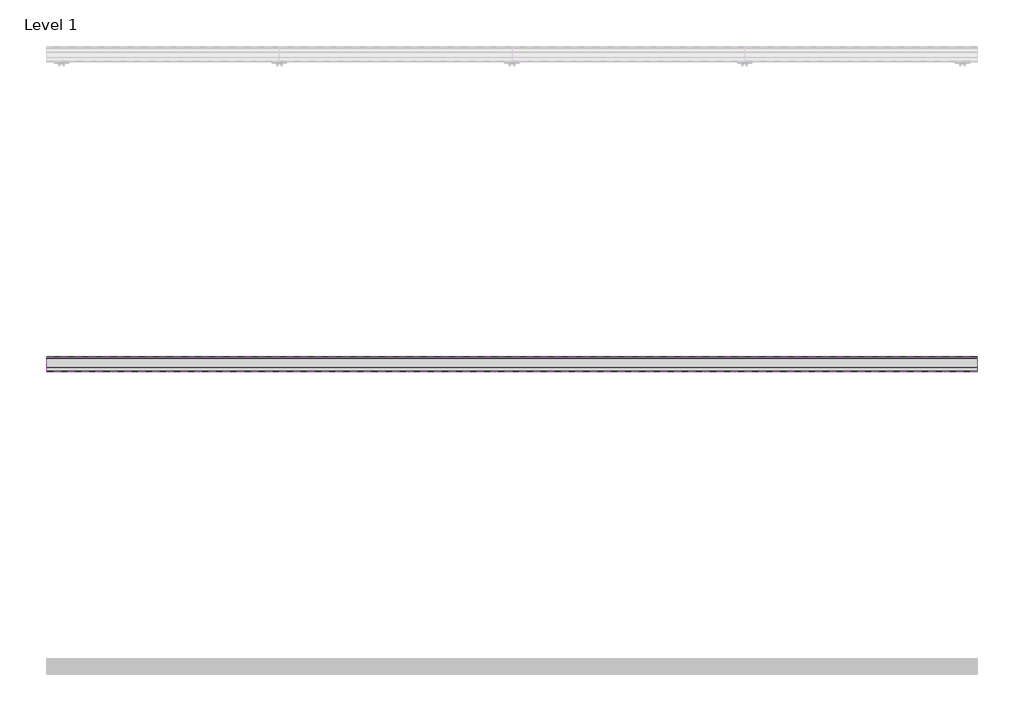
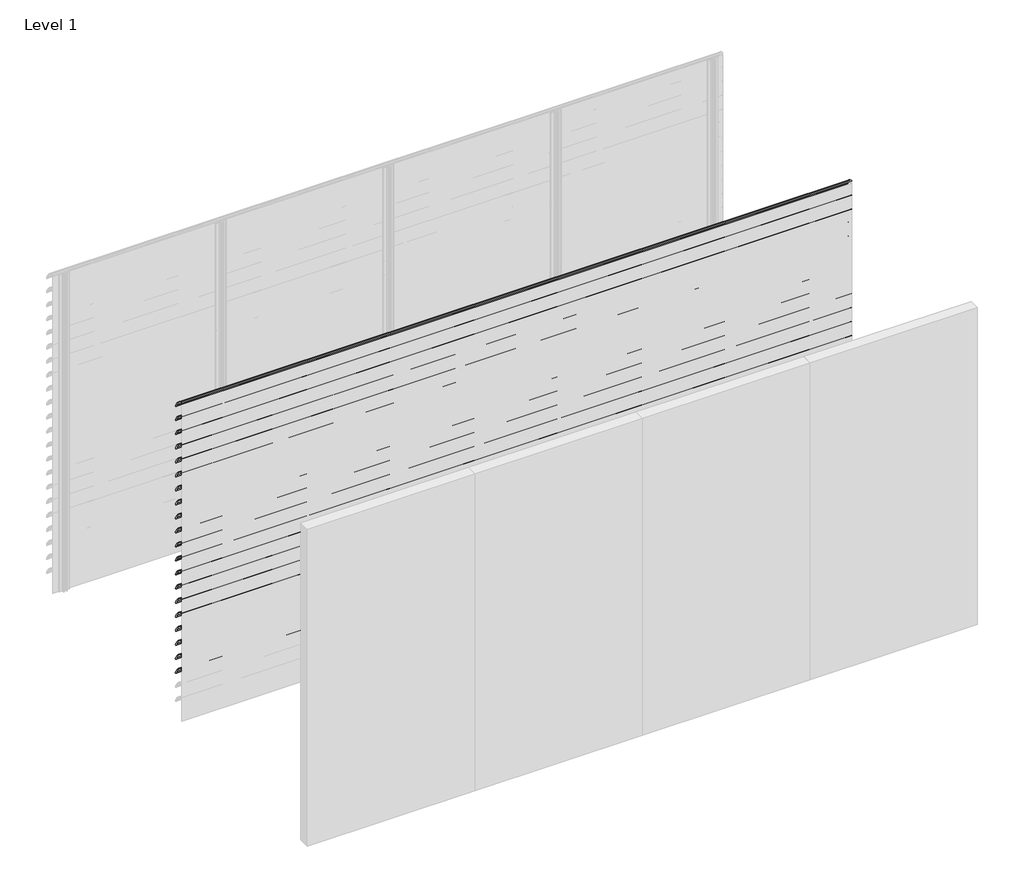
# One storey, part 3 of 57: 20 proxies.
"""IFC4 building model written with IfcOpenShell, lengths in millimetres."""

from ifc_helpers import new_model, si_unit, point, frame, frame_2d, origin, place, context, project, spatial, polyline, circle_curve, trimmed, segment, composite_curve, outline, extrude, element, save

model = new_model("IFC4")

# Units and contexts
model_context = context("Model", 3, world=origin())
ifc_project = project(units=[si_unit("LENGTHUNIT", "METRE", prefix="MILLI")], contexts=[model_context])

# Site, building, storey
site = spatial("IfcSite", under=ifc_project)
building = spatial("IfcBuilding", under=site)
storey = spatial("IfcBuildingStorey", under=building, Name="Level 1", Elevation=0.0)

# Proxies
placement = place(None, origin())
element("IfcBuildingElementProxy", 1, Name="Wall Sweeps", at=placement, inside=storey, context=model_context, shape_type="SweptSolid", body=[
    extrude(outline(composite_curve([segment(trimmed(circle_curve(frame_2d((-55993.7822526, 3016.4913792)), 4.2177474), [point((-55989.6985606, 3017.5462976))], [point((-55993.7822526, 3020.7091266))], False, "CARTESIAN"), True, "CONTINUOUS"), segment(trimmed(circle_curve(frame_2d((-56018.7150834, 2918.2536312)), 105.4456002), [point((-55993.7822526, 3020.7091266))], [point((-55971.7914298, 3012.6832099))], False, "CARTESIAN"), True, "CONTINUOUS"), segment(trimmed(circle_curve(frame_2d((-56061.7199745, 2864.0352476)), 173.7335887), [point((-55971.7914298, 3012.6832099))], [point((-55913.0720121, 2953.9637922))], False, "CARTESIAN"), True, "CONTINUOUS"), segment(trimmed(circle_curve(frame_2d((-56004.9297178, 2902.1860314)), 105.4456002), [point((-55913.0720121, 2953.9637922))], [point((-55903.6249616, 2931.4455765))], False, "CARTESIAN"), True, "CONTINUOUS"), segment(trimmed(circle_curve(frame_2d((-55907.809737, 2930.3307305)), 4.3307305), [point((-55903.6249616, 2931.4455765))], [point((-55909.0769196, 2926.189538))], False, "CARTESIAN"), True, "CONTINUOUS"), segment(polyline([(-55909.0769196, 2926.189538), (-55934.7401984, 2950.9722783)]), True, "CONTINUOUS"), segment(trimmed(circle_curve(frame_2d((-55931.3879574, 2953.2977626)), 4.079877), [point((-55934.7401984, 2950.9722783))], [point((-55930.7310597, 2957.3244091))], False, "CARTESIAN"), True, "CONTINUOUS"), segment(trimmed(circle_curve(frame_2d((-56014.6665585, 2935.2544323)), 86.7885467), [point((-55930.7310597, 2957.3244091))], [point((-55942.3028351, 2983.1683485))], True, "CARTESIAN"), True, "CONTINUOUS"), segment(polyline([(-55942.3028351, 2983.1683485), (-55940.7230099, 2985.9046861)]), True, "CONTINUOUS"), segment(trimmed(circle_curve(frame_2d((-56061.7199745, 2864.0352476)), 171.7335887), [point((-55940.7230099, 2985.9046861))], [point((-55972.7555872, 3010.9289618))], True, "CARTESIAN"), True, "CONTINUOUS"), segment(trimmed(circle_curve(frame_2d((-56018.7150834, 2918.2536312)), 103.4456002), [point((-55972.7555872, 3010.9289618))], [point((-55989.6985606, 3017.5462976))], True, "CARTESIAN"), True, "CONTINUOUS")], self_intersect=False)), frame((0.0, 0.0, 0.0), z_axis=(1.0, 0.0, 0.0), x_axis=(0.0, 1.0, 0.0)), (0.0, 0.0, 1.0), 6000.0),
])
element("IfcBuildingElementProxy", 2, Name="Wall Sweeps", at=placement, inside=storey, context=model_context, shape_type="SweptSolid", body=[
    extrude(outline(composite_curve([segment(trimmed(circle_curve(frame_2d((-55993.7822526, 2883.4913792)), 4.2177474), [point((-55989.6985606, 2884.5462976))], [point((-55993.7822526, 2887.7091266))], False, "CARTESIAN"), True, "CONTINUOUS"), segment(trimmed(circle_curve(frame_2d((-56018.7150834, 2785.2536312)), 105.4456002), [point((-55993.7822526, 2887.7091266))], [point((-55971.7914298, 2879.6832099))], False, "CARTESIAN"), True, "CONTINUOUS"), segment(trimmed(circle_curve(frame_2d((-56061.7199745, 2731.0352476)), 173.7335887), [point((-55971.7914298, 2879.6832099))], [point((-55913.0720121, 2820.9637922))], False, "CARTESIAN"), True, "CONTINUOUS"), segment(trimmed(circle_curve(frame_2d((-56004.9297178, 2769.1860314)), 105.4456002), [point((-55913.0720121, 2820.9637922))], [point((-55903.6249616, 2798.4455765))], False, "CARTESIAN"), True, "CONTINUOUS"), segment(trimmed(circle_curve(frame_2d((-55907.809737, 2797.3307305)), 4.3307305), [point((-55903.6249616, 2798.4455765))], [point((-55909.0769196, 2793.189538))], False, "CARTESIAN"), True, "CONTINUOUS"), segment(polyline([(-55909.0769196, 2793.189538), (-55934.7401984, 2817.9722783)]), True, "CONTINUOUS"), segment(trimmed(circle_curve(frame_2d((-55931.3879574, 2820.2977626)), 4.079877), [point((-55934.7401984, 2817.9722783))], [point((-55930.7310597, 2824.3244091))], False, "CARTESIAN"), True, "CONTINUOUS"), segment(trimmed(circle_curve(frame_2d((-56014.6665585, 2802.2544323)), 86.7885467), [point((-55930.7310597, 2824.3244091))], [point((-55942.3028351, 2850.1683485))], True, "CARTESIAN"), True, "CONTINUOUS"), segment(polyline([(-55942.3028351, 2850.1683485), (-55940.7230099, 2852.9046861)]), True, "CONTINUOUS"), segment(trimmed(circle_curve(frame_2d((-56061.7199745, 2731.0352476)), 171.7335887), [point((-55940.7230099, 2852.9046861))], [point((-55972.7555872, 2877.9289618))], True, "CARTESIAN"), True, "CONTINUOUS"), segment(trimmed(circle_curve(frame_2d((-56018.7150834, 2785.2536312)), 103.4456002), [point((-55972.7555872, 2877.9289618))], [point((-55989.6985606, 2884.5462976))], True, "CARTESIAN"), True, "CONTINUOUS")], self_intersect=False)), frame((0.0, 0.0, 0.0), z_axis=(1.0, 0.0, 0.0), x_axis=(0.0, 1.0, 0.0)), (0.0, 0.0, 1.0), 6000.0),
])
element("IfcBuildingElementProxy", 3, Name="Wall Sweeps", at=placement, inside=storey, context=model_context, shape_type="SweptSolid", body=[
    extrude(outline(composite_curve([segment(trimmed(circle_curve(frame_2d((-55993.7822526, 2750.4913792)), 4.2177474), [point((-55989.6985606, 2751.5462976))], [point((-55993.7822526, 2754.7091266))], False, "CARTESIAN"), True, "CONTINUOUS"), segment(trimmed(circle_curve(frame_2d((-56018.7150834, 2652.2536312)), 105.4456002), [point((-55993.7822526, 2754.7091266))], [point((-55971.7914298, 2746.6832099))], False, "CARTESIAN"), True, "CONTINUOUS"), segment(trimmed(circle_curve(frame_2d((-56061.7199745, 2598.0352476)), 173.7335887), [point((-55971.7914298, 2746.6832099))], [point((-55913.0720121, 2687.9637922))], False, "CARTESIAN"), True, "CONTINUOUS"), segment(trimmed(circle_curve(frame_2d((-56004.9297178, 2636.1860314)), 105.4456002), [point((-55913.0720121, 2687.9637922))], [point((-55903.6249616, 2665.4455765))], False, "CARTESIAN"), True, "CONTINUOUS"), segment(trimmed(circle_curve(frame_2d((-55907.809737, 2664.3307305)), 4.3307305), [point((-55903.6249616, 2665.4455765))], [point((-55909.0769196, 2660.189538))], False, "CARTESIAN"), True, "CONTINUOUS"), segment(polyline([(-55909.0769196, 2660.189538), (-55934.7401984, 2684.9722783)]), True, "CONTINUOUS"), segment(trimmed(circle_curve(frame_2d((-55931.3879574, 2687.2977626)), 4.079877), [point((-55934.7401984, 2684.9722783))], [point((-55930.7310597, 2691.3244091))], False, "CARTESIAN"), True, "CONTINUOUS"), segment(trimmed(circle_curve(frame_2d((-56014.6665585, 2669.2544323)), 86.7885467), [point((-55930.7310597, 2691.3244091))], [point((-55942.3028351, 2717.1683485))], True, "CARTESIAN"), True, "CONTINUOUS"), segment(polyline([(-55942.3028351, 2717.1683485), (-55940.7230099, 2719.9046861)]), True, "CONTINUOUS"), segment(trimmed(circle_curve(frame_2d((-56061.7199745, 2598.0352476)), 171.7335887), [point((-55940.7230099, 2719.9046861))], [point((-55972.7555872, 2744.9289618))], True, "CARTESIAN"), True, "CONTINUOUS"), segment(trimmed(circle_curve(frame_2d((-56018.7150834, 2652.2536312)), 103.4456002), [point((-55972.7555872, 2744.9289618))], [point((-55989.6985606, 2751.5462976))], True, "CARTESIAN"), True, "CONTINUOUS")], self_intersect=False)), frame((0.0, 0.0, 0.0), z_axis=(1.0, 0.0, 0.0), x_axis=(0.0, 1.0, 0.0)), (0.0, 0.0, 1.0), 6000.0),
])
element("IfcBuildingElementProxy", 4, Name="Wall Sweeps", at=placement, inside=storey, context=model_context, shape_type="SweptSolid", body=[
    extrude(outline(composite_curve([segment(trimmed(circle_curve(frame_2d((-55993.7822526, 2617.4913792)), 4.2177474), [point((-55989.6985606, 2618.5462976))], [point((-55993.7822526, 2621.7091266))], False, "CARTESIAN"), True, "CONTINUOUS"), segment(trimmed(circle_curve(frame_2d((-56018.7150834, 2519.2536312)), 105.4456002), [point((-55993.7822526, 2621.7091266))], [point((-55971.7914298, 2613.6832099))], False, "CARTESIAN"), True, "CONTINUOUS"), segment(trimmed(circle_curve(frame_2d((-56061.7199745, 2465.0352476)), 173.7335887), [point((-55971.7914298, 2613.6832099))], [point((-55913.0720121, 2554.9637922))], False, "CARTESIAN"), True, "CONTINUOUS"), segment(trimmed(circle_curve(frame_2d((-56004.9297178, 2503.1860314)), 105.4456002), [point((-55913.0720121, 2554.9637922))], [point((-55903.6249616, 2532.4455765))], False, "CARTESIAN"), True, "CONTINUOUS"), segment(trimmed(circle_curve(frame_2d((-55907.809737, 2531.3307305)), 4.3307305), [point((-55903.6249616, 2532.4455765))], [point((-55909.0769196, 2527.189538))], False, "CARTESIAN"), True, "CONTINUOUS"), segment(polyline([(-55909.0769196, 2527.189538), (-55934.7401984, 2551.9722783)]), True, "CONTINUOUS"), segment(trimmed(circle_curve(frame_2d((-55931.3879574, 2554.2977626)), 4.079877), [point((-55934.7401984, 2551.9722783))], [point((-55930.7310597, 2558.3244091))], False, "CARTESIAN"), True, "CONTINUOUS"), segment(trimmed(circle_curve(frame_2d((-56014.6665585, 2536.2544323)), 86.7885467), [point((-55930.7310597, 2558.3244091))], [point((-55942.3028351, 2584.1683485))], True, "CARTESIAN"), True, "CONTINUOUS"), segment(polyline([(-55942.3028351, 2584.1683485), (-55940.7230099, 2586.9046861)]), True, "CONTINUOUS"), segment(trimmed(circle_curve(frame_2d((-56061.7199745, 2465.0352476)), 171.7335887), [point((-55940.7230099, 2586.9046861))], [point((-55972.7555872, 2611.9289618))], True, "CARTESIAN"), True, "CONTINUOUS"), segment(trimmed(circle_curve(frame_2d((-56018.7150834, 2519.2536312)), 103.4456002), [point((-55972.7555872, 2611.9289618))], [point((-55989.6985606, 2618.5462976))], True, "CARTESIAN"), True, "CONTINUOUS")], self_intersect=False)), frame((0.0, 0.0, 0.0), z_axis=(1.0, 0.0, 0.0), x_axis=(0.0, 1.0, 0.0)), (0.0, 0.0, 1.0), 6000.0),
])
element("IfcBuildingElementProxy", 5, Name="Wall Sweeps", at=placement, inside=storey, context=model_context, shape_type="SweptSolid", body=[
    extrude(outline(composite_curve([segment(trimmed(circle_curve(frame_2d((-55993.7822526, 2484.4913792)), 4.2177474), [point((-55989.6985606, 2485.5462976))], [point((-55993.7822526, 2488.7091266))], False, "CARTESIAN"), True, "CONTINUOUS"), segment(trimmed(circle_curve(frame_2d((-56018.7150834, 2386.2536312)), 105.4456002), [point((-55993.7822526, 2488.7091266))], [point((-55971.7914298, 2480.6832099))], False, "CARTESIAN"), True, "CONTINUOUS"), segment(trimmed(circle_curve(frame_2d((-56061.7199745, 2332.0352476)), 173.7335887), [point((-55971.7914298, 2480.6832099))], [point((-55913.0720121, 2421.9637922))], False, "CARTESIAN"), True, "CONTINUOUS"), segment(trimmed(circle_curve(frame_2d((-56004.9297178, 2370.1860314)), 105.4456002), [point((-55913.0720121, 2421.9637922))], [point((-55903.6249616, 2399.4455765))], False, "CARTESIAN"), True, "CONTINUOUS"), segment(trimmed(circle_curve(frame_2d((-55907.809737, 2398.3307305)), 4.3307305), [point((-55903.6249616, 2399.4455765))], [point((-55909.0769196, 2394.189538))], False, "CARTESIAN"), True, "CONTINUOUS"), segment(polyline([(-55909.0769196, 2394.189538), (-55934.7401984, 2418.9722783)]), True, "CONTINUOUS"), segment(trimmed(circle_curve(frame_2d((-55931.3879574, 2421.2977626)), 4.079877), [point((-55934.7401984, 2418.9722783))], [point((-55930.7310597, 2425.3244091))], False, "CARTESIAN"), True, "CONTINUOUS"), segment(trimmed(circle_curve(frame_2d((-56014.6665585, 2403.2544323)), 86.7885467), [point((-55930.7310597, 2425.3244091))], [point((-55942.3028351, 2451.1683485))], True, "CARTESIAN"), True, "CONTINUOUS"), segment(polyline([(-55942.3028351, 2451.1683485), (-55940.7230099, 2453.9046861)]), True, "CONTINUOUS"), segment(trimmed(circle_curve(frame_2d((-56061.7199745, 2332.0352476)), 171.7335887), [point((-55940.7230099, 2453.9046861))], [point((-55972.7555872, 2478.9289618))], True, "CARTESIAN"), True, "CONTINUOUS"), segment(trimmed(circle_curve(frame_2d((-56018.7150834, 2386.2536312)), 103.4456002), [point((-55972.7555872, 2478.9289618))], [point((-55989.6985606, 2485.5462976))], True, "CARTESIAN"), True, "CONTINUOUS")], self_intersect=False)), frame((0.0, 0.0, 0.0), z_axis=(1.0, 0.0, 0.0), x_axis=(0.0, 1.0, 0.0)), (0.0, 0.0, 1.0), 6000.0),
])
element("IfcBuildingElementProxy", 6, Name="Wall Sweeps", at=placement, inside=storey, context=model_context, shape_type="SweptSolid", body=[
    extrude(outline(composite_curve([segment(trimmed(circle_curve(frame_2d((-55993.7822526, 2351.4913792)), 4.2177474), [point((-55989.6985606, 2352.5462976))], [point((-55993.7822526, 2355.7091266))], False, "CARTESIAN"), True, "CONTINUOUS"), segment(trimmed(circle_curve(frame_2d((-56018.7150834, 2253.2536312)), 105.4456002), [point((-55993.7822526, 2355.7091266))], [point((-55971.7914298, 2347.6832099))], False, "CARTESIAN"), True, "CONTINUOUS"), segment(trimmed(circle_curve(frame_2d((-56061.7199745, 2199.0352476)), 173.7335887), [point((-55971.7914298, 2347.6832099))], [point((-55913.0720121, 2288.9637922))], False, "CARTESIAN"), True, "CONTINUOUS"), segment(trimmed(circle_curve(frame_2d((-56004.9297178, 2237.1860314)), 105.4456002), [point((-55913.0720121, 2288.9637922))], [point((-55903.6249616, 2266.4455765))], False, "CARTESIAN"), True, "CONTINUOUS"), segment(trimmed(circle_curve(frame_2d((-55907.809737, 2265.3307305)), 4.3307305), [point((-55903.6249616, 2266.4455765))], [point((-55909.0769196, 2261.189538))], False, "CARTESIAN"), True, "CONTINUOUS"), segment(polyline([(-55909.0769196, 2261.189538), (-55934.7401984, 2285.9722783)]), True, "CONTINUOUS"), segment(trimmed(circle_curve(frame_2d((-55931.3879574, 2288.2977626)), 4.079877), [point((-55934.7401984, 2285.9722783))], [point((-55930.7310597, 2292.3244091))], False, "CARTESIAN"), True, "CONTINUOUS"), segment(trimmed(circle_curve(frame_2d((-56014.6665585, 2270.2544323)), 86.7885467), [point((-55930.7310597, 2292.3244091))], [point((-55942.3028351, 2318.1683485))], True, "CARTESIAN"), True, "CONTINUOUS"), segment(polyline([(-55942.3028351, 2318.1683485), (-55940.7230099, 2320.9046861)]), True, "CONTINUOUS"), segment(trimmed(circle_curve(frame_2d((-56061.7199745, 2199.0352476)), 171.7335887), [point((-55940.7230099, 2320.9046861))], [point((-55972.7555872, 2345.9289618))], True, "CARTESIAN"), True, "CONTINUOUS"), segment(trimmed(circle_curve(frame_2d((-56018.7150834, 2253.2536312)), 103.4456002), [point((-55972.7555872, 2345.9289618))], [point((-55989.6985606, 2352.5462976))], True, "CARTESIAN"), True, "CONTINUOUS")], self_intersect=False)), frame((0.0, 0.0, 0.0), z_axis=(1.0, 0.0, 0.0), x_axis=(0.0, 1.0, 0.0)), (0.0, 0.0, 1.0), 6000.0),
])
element("IfcBuildingElementProxy", 7, Name="Wall Sweeps", at=placement, inside=storey, context=model_context, shape_type="SweptSolid", body=[
    extrude(outline(composite_curve([segment(trimmed(circle_curve(frame_2d((-55993.7822526, 2218.4913792)), 4.2177474), [point((-55989.6985606, 2219.5462976))], [point((-55993.7822526, 2222.7091266))], False, "CARTESIAN"), True, "CONTINUOUS"), segment(trimmed(circle_curve(frame_2d((-56018.7150834, 2120.2536312)), 105.4456002), [point((-55993.7822526, 2222.7091266))], [point((-55971.7914298, 2214.6832099))], False, "CARTESIAN"), True, "CONTINUOUS"), segment(trimmed(circle_curve(frame_2d((-56061.7199745, 2066.0352476)), 173.7335887), [point((-55971.7914298, 2214.6832099))], [point((-55913.0720121, 2155.9637922))], False, "CARTESIAN"), True, "CONTINUOUS"), segment(trimmed(circle_curve(frame_2d((-56004.9297178, 2104.1860314)), 105.4456002), [point((-55913.0720121, 2155.9637922))], [point((-55903.6249616, 2133.4455765))], False, "CARTESIAN"), True, "CONTINUOUS"), segment(trimmed(circle_curve(frame_2d((-55907.809737, 2132.3307305)), 4.3307305), [point((-55903.6249616, 2133.4455765))], [point((-55909.0769196, 2128.189538))], False, "CARTESIAN"), True, "CONTINUOUS"), segment(polyline([(-55909.0769196, 2128.189538), (-55934.7401984, 2152.9722783)]), True, "CONTINUOUS"), segment(trimmed(circle_curve(frame_2d((-55931.3879574, 2155.2977626)), 4.079877), [point((-55934.7401984, 2152.9722783))], [point((-55930.7310597, 2159.3244091))], False, "CARTESIAN"), True, "CONTINUOUS"), segment(trimmed(circle_curve(frame_2d((-56014.6665585, 2137.2544323)), 86.7885467), [point((-55930.7310597, 2159.3244091))], [point((-55942.3028351, 2185.1683485))], True, "CARTESIAN"), True, "CONTINUOUS"), segment(polyline([(-55942.3028351, 2185.1683485), (-55940.7230099, 2187.9046861)]), True, "CONTINUOUS"), segment(trimmed(circle_curve(frame_2d((-56061.7199745, 2066.0352476)), 171.7335887), [point((-55940.7230099, 2187.9046861))], [point((-55972.7555872, 2212.9289618))], True, "CARTESIAN"), True, "CONTINUOUS"), segment(trimmed(circle_curve(frame_2d((-56018.7150834, 2120.2536312)), 103.4456002), [point((-55972.7555872, 2212.9289618))], [point((-55989.6985606, 2219.5462976))], True, "CARTESIAN"), True, "CONTINUOUS")], self_intersect=False)), frame((0.0, 0.0, 0.0), z_axis=(1.0, 0.0, 0.0), x_axis=(0.0, 1.0, 0.0)), (0.0, 0.0, 1.0), 6000.0),
])
element("IfcBuildingElementProxy", 8, Name="Wall Sweeps", at=placement, inside=storey, context=model_context, shape_type="SweptSolid", body=[
    extrude(outline(composite_curve([segment(trimmed(circle_curve(frame_2d((-55993.7822526, 2085.4913792)), 4.2177474), [point((-55989.6985606, 2086.5462976))], [point((-55993.7822526, 2089.7091266))], False, "CARTESIAN"), True, "CONTINUOUS"), segment(trimmed(circle_curve(frame_2d((-56018.7150834, 1987.2536312)), 105.4456002), [point((-55993.7822526, 2089.7091266))], [point((-55971.7914298, 2081.6832099))], False, "CARTESIAN"), True, "CONTINUOUS"), segment(trimmed(circle_curve(frame_2d((-56061.7199745, 1933.0352476)), 173.7335887), [point((-55971.7914298, 2081.6832099))], [point((-55913.0720121, 2022.9637922))], False, "CARTESIAN"), True, "CONTINUOUS"), segment(trimmed(circle_curve(frame_2d((-56004.9297178, 1971.1860314)), 105.4456002), [point((-55913.0720121, 2022.9637922))], [point((-55903.6249616, 2000.4455765))], False, "CARTESIAN"), True, "CONTINUOUS"), segment(trimmed(circle_curve(frame_2d((-55907.809737, 1999.3307305)), 4.3307305), [point((-55903.6249616, 2000.4455765))], [point((-55909.0769196, 1995.189538))], False, "CARTESIAN"), True, "CONTINUOUS"), segment(polyline([(-55909.0769196, 1995.189538), (-55934.7401984, 2019.9722783)]), True, "CONTINUOUS"), segment(trimmed(circle_curve(frame_2d((-55931.3879574, 2022.2977626)), 4.079877), [point((-55934.7401984, 2019.9722783))], [point((-55930.7310597, 2026.3244091))], False, "CARTESIAN"), True, "CONTINUOUS"), segment(trimmed(circle_curve(frame_2d((-56014.6665585, 2004.2544323)), 86.7885467), [point((-55930.7310597, 2026.3244091))], [point((-55942.3028351, 2052.1683485))], True, "CARTESIAN"), True, "CONTINUOUS"), segment(polyline([(-55942.3028351, 2052.1683485), (-55940.7230099, 2054.9046861)]), True, "CONTINUOUS"), segment(trimmed(circle_curve(frame_2d((-56061.7199745, 1933.0352476)), 171.7335887), [point((-55940.7230099, 2054.9046861))], [point((-55972.7555872, 2079.9289618))], True, "CARTESIAN"), True, "CONTINUOUS"), segment(trimmed(circle_curve(frame_2d((-56018.7150834, 1987.2536312)), 103.4456002), [point((-55972.7555872, 2079.9289618))], [point((-55989.6985606, 2086.5462976))], True, "CARTESIAN"), True, "CONTINUOUS")], self_intersect=False)), frame((0.0, 0.0, 0.0), z_axis=(1.0, 0.0, 0.0), x_axis=(0.0, 1.0, 0.0)), (0.0, 0.0, 1.0), 6000.0),
])
element("IfcBuildingElementProxy", 9, Name="Wall Sweeps", at=placement, inside=storey, context=model_context, shape_type="SweptSolid", body=[
    extrude(outline(composite_curve([segment(trimmed(circle_curve(frame_2d((-55993.7822526, 1952.4913792)), 4.2177474), [point((-55989.6985606, 1953.5462976))], [point((-55993.7822526, 1956.7091266))], False, "CARTESIAN"), True, "CONTINUOUS"), segment(trimmed(circle_curve(frame_2d((-56018.7150834, 1854.2536312)), 105.4456002), [point((-55993.7822526, 1956.7091266))], [point((-55971.7914298, 1948.6832099))], False, "CARTESIAN"), True, "CONTINUOUS"), segment(trimmed(circle_curve(frame_2d((-56061.7199745, 1800.0352476)), 173.7335887), [point((-55971.7914298, 1948.6832099))], [point((-55913.0720121, 1889.9637922))], False, "CARTESIAN"), True, "CONTINUOUS"), segment(trimmed(circle_curve(frame_2d((-56004.9297178, 1838.1860314)), 105.4456002), [point((-55913.0720121, 1889.9637922))], [point((-55903.6249616, 1867.4455765))], False, "CARTESIAN"), True, "CONTINUOUS"), segment(trimmed(circle_curve(frame_2d((-55907.809737, 1866.3307305)), 4.3307305), [point((-55903.6249616, 1867.4455765))], [point((-55909.0769196, 1862.189538))], False, "CARTESIAN"), True, "CONTINUOUS"), segment(polyline([(-55909.0769196, 1862.189538), (-55934.7401984, 1886.9722783)]), True, "CONTINUOUS"), segment(trimmed(circle_curve(frame_2d((-55931.3879574, 1889.2977626)), 4.079877), [point((-55934.7401984, 1886.9722783))], [point((-55930.7310597, 1893.3244091))], False, "CARTESIAN"), True, "CONTINUOUS"), segment(trimmed(circle_curve(frame_2d((-56014.6665585, 1871.2544323)), 86.7885467), [point((-55930.7310597, 1893.3244091))], [point((-55942.3028351, 1919.1683485))], True, "CARTESIAN"), True, "CONTINUOUS"), segment(polyline([(-55942.3028351, 1919.1683485), (-55940.7230099, 1921.9046861)]), True, "CONTINUOUS"), segment(trimmed(circle_curve(frame_2d((-56061.7199745, 1800.0352476)), 171.7335887), [point((-55940.7230099, 1921.9046861))], [point((-55972.7555872, 1946.9289618))], True, "CARTESIAN"), True, "CONTINUOUS"), segment(trimmed(circle_curve(frame_2d((-56018.7150834, 1854.2536312)), 103.4456002), [point((-55972.7555872, 1946.9289618))], [point((-55989.6985606, 1953.5462976))], True, "CARTESIAN"), True, "CONTINUOUS")], self_intersect=False)), frame((0.0, 0.0, 0.0), z_axis=(1.0, 0.0, 0.0), x_axis=(0.0, 1.0, 0.0)), (0.0, 0.0, 1.0), 6000.0),
])
element("IfcBuildingElementProxy", 10, Name="Wall Sweeps", at=placement, inside=storey, context=model_context, shape_type="SweptSolid", body=[
    extrude(outline(composite_curve([segment(trimmed(circle_curve(frame_2d((-55993.7822526, 1819.4913792)), 4.2177474), [point((-55989.6985606, 1820.5462976))], [point((-55993.7822526, 1823.7091266))], False, "CARTESIAN"), True, "CONTINUOUS"), segment(trimmed(circle_curve(frame_2d((-56018.7150834, 1721.2536312)), 105.4456002), [point((-55993.7822526, 1823.7091266))], [point((-55971.7914298, 1815.6832099))], False, "CARTESIAN"), True, "CONTINUOUS"), segment(trimmed(circle_curve(frame_2d((-56061.7199745, 1667.0352476)), 173.7335887), [point((-55971.7914298, 1815.6832099))], [point((-55913.0720121, 1756.9637922))], False, "CARTESIAN"), True, "CONTINUOUS"), segment(trimmed(circle_curve(frame_2d((-56004.9297178, 1705.1860314)), 105.4456002), [point((-55913.0720121, 1756.9637922))], [point((-55903.6249616, 1734.4455765))], False, "CARTESIAN"), True, "CONTINUOUS"), segment(trimmed(circle_curve(frame_2d((-55907.809737, 1733.3307305)), 4.3307305), [point((-55903.6249616, 1734.4455765))], [point((-55909.0769196, 1729.189538))], False, "CARTESIAN"), True, "CONTINUOUS"), segment(polyline([(-55909.0769196, 1729.189538), (-55934.7401984, 1753.9722783)]), True, "CONTINUOUS"), segment(trimmed(circle_curve(frame_2d((-55931.3879574, 1756.2977626)), 4.079877), [point((-55934.7401984, 1753.9722783))], [point((-55930.7310597, 1760.3244091))], False, "CARTESIAN"), True, "CONTINUOUS"), segment(trimmed(circle_curve(frame_2d((-56014.6665585, 1738.2544323)), 86.7885467), [point((-55930.7310597, 1760.3244091))], [point((-55942.3028351, 1786.1683485))], True, "CARTESIAN"), True, "CONTINUOUS"), segment(polyline([(-55942.3028351, 1786.1683485), (-55940.7230099, 1788.9046861)]), True, "CONTINUOUS"), segment(trimmed(circle_curve(frame_2d((-56061.7199745, 1667.0352476)), 171.7335887), [point((-55940.7230099, 1788.9046861))], [point((-55972.7555872, 1813.9289618))], True, "CARTESIAN"), True, "CONTINUOUS"), segment(trimmed(circle_curve(frame_2d((-56018.7150834, 1721.2536312)), 103.4456002), [point((-55972.7555872, 1813.9289618))], [point((-55989.6985606, 1820.5462976))], True, "CARTESIAN"), True, "CONTINUOUS")], self_intersect=False)), frame((0.0, 0.0, 0.0), z_axis=(1.0, 0.0, 0.0), x_axis=(0.0, 1.0, 0.0)), (0.0, 0.0, 1.0), 6000.0),
])
element("IfcBuildingElementProxy", 11, Name="Wall Sweeps", at=placement, inside=storey, context=model_context, shape_type="SweptSolid", body=[
    extrude(outline(composite_curve([segment(trimmed(circle_curve(frame_2d((-55993.7822526, 1686.4913792)), 4.2177474), [point((-55989.6985606, 1687.5462976))], [point((-55993.7822526, 1690.7091266))], False, "CARTESIAN"), True, "CONTINUOUS"), segment(trimmed(circle_curve(frame_2d((-56018.7150834, 1588.2536312)), 105.4456002), [point((-55993.7822526, 1690.7091266))], [point((-55971.7914298, 1682.6832099))], False, "CARTESIAN"), True, "CONTINUOUS"), segment(trimmed(circle_curve(frame_2d((-56061.7199745, 1534.0352476)), 173.7335887), [point((-55971.7914298, 1682.6832099))], [point((-55913.0720121, 1623.9637922))], False, "CARTESIAN"), True, "CONTINUOUS"), segment(trimmed(circle_curve(frame_2d((-56004.9297178, 1572.1860314)), 105.4456002), [point((-55913.0720121, 1623.9637922))], [point((-55903.6249616, 1601.4455765))], False, "CARTESIAN"), True, "CONTINUOUS"), segment(trimmed(circle_curve(frame_2d((-55907.809737, 1600.3307305)), 4.3307305), [point((-55903.6249616, 1601.4455765))], [point((-55909.0769196, 1596.189538))], False, "CARTESIAN"), True, "CONTINUOUS"), segment(polyline([(-55909.0769196, 1596.189538), (-55934.7401984, 1620.9722783)]), True, "CONTINUOUS"), segment(trimmed(circle_curve(frame_2d((-55931.3879574, 1623.2977626)), 4.079877), [point((-55934.7401984, 1620.9722783))], [point((-55930.7310597, 1627.3244091))], False, "CARTESIAN"), True, "CONTINUOUS"), segment(trimmed(circle_curve(frame_2d((-56014.6665585, 1605.2544323)), 86.7885467), [point((-55930.7310597, 1627.3244091))], [point((-55942.3028351, 1653.1683485))], True, "CARTESIAN"), True, "CONTINUOUS"), segment(polyline([(-55942.3028351, 1653.1683485), (-55940.7230099, 1655.9046861)]), True, "CONTINUOUS"), segment(trimmed(circle_curve(frame_2d((-56061.7199745, 1534.0352476)), 171.7335887), [point((-55940.7230099, 1655.9046861))], [point((-55972.7555872, 1680.9289618))], True, "CARTESIAN"), True, "CONTINUOUS"), segment(trimmed(circle_curve(frame_2d((-56018.7150834, 1588.2536312)), 103.4456002), [point((-55972.7555872, 1680.9289618))], [point((-55989.6985606, 1687.5462976))], True, "CARTESIAN"), True, "CONTINUOUS")], self_intersect=False)), frame((0.0, 0.0, 0.0), z_axis=(1.0, 0.0, 0.0), x_axis=(0.0, 1.0, 0.0)), (0.0, 0.0, 1.0), 6000.0),
])
element("IfcBuildingElementProxy", 12, Name="Wall Sweeps", at=placement, inside=storey, context=model_context, shape_type="SweptSolid", body=[
    extrude(outline(composite_curve([segment(trimmed(circle_curve(frame_2d((-55993.7822526, 1553.4913792)), 4.2177474), [point((-55989.6985606, 1554.5462976))], [point((-55993.7822526, 1557.7091266))], False, "CARTESIAN"), True, "CONTINUOUS"), segment(trimmed(circle_curve(frame_2d((-56018.7150834, 1455.2536312)), 105.4456002), [point((-55993.7822526, 1557.7091266))], [point((-55971.7914298, 1549.6832099))], False, "CARTESIAN"), True, "CONTINUOUS"), segment(trimmed(circle_curve(frame_2d((-56061.7199745, 1401.0352476)), 173.7335887), [point((-55971.7914298, 1549.6832099))], [point((-55913.0720121, 1490.9637922))], False, "CARTESIAN"), True, "CONTINUOUS"), segment(trimmed(circle_curve(frame_2d((-56004.9297178, 1439.1860314)), 105.4456002), [point((-55913.0720121, 1490.9637922))], [point((-55903.6249616, 1468.4455765))], False, "CARTESIAN"), True, "CONTINUOUS"), segment(trimmed(circle_curve(frame_2d((-55907.809737, 1467.3307305)), 4.3307305), [point((-55903.6249616, 1468.4455765))], [point((-55909.0769196, 1463.189538))], False, "CARTESIAN"), True, "CONTINUOUS"), segment(polyline([(-55909.0769196, 1463.189538), (-55934.7401984, 1487.9722783)]), True, "CONTINUOUS"), segment(trimmed(circle_curve(frame_2d((-55931.3879574, 1490.2977626)), 4.079877), [point((-55934.7401984, 1487.9722783))], [point((-55930.7310597, 1494.3244091))], False, "CARTESIAN"), True, "CONTINUOUS"), segment(trimmed(circle_curve(frame_2d((-56014.6665585, 1472.2544323)), 86.7885467), [point((-55930.7310597, 1494.3244091))], [point((-55942.3028351, 1520.1683485))], True, "CARTESIAN"), True, "CONTINUOUS"), segment(polyline([(-55942.3028351, 1520.1683485), (-55940.7230099, 1522.9046861)]), True, "CONTINUOUS"), segment(trimmed(circle_curve(frame_2d((-56061.7199745, 1401.0352476)), 171.7335887), [point((-55940.7230099, 1522.9046861))], [point((-55972.7555872, 1547.9289618))], True, "CARTESIAN"), True, "CONTINUOUS"), segment(trimmed(circle_curve(frame_2d((-56018.7150834, 1455.2536312)), 103.4456002), [point((-55972.7555872, 1547.9289618))], [point((-55989.6985606, 1554.5462976))], True, "CARTESIAN"), True, "CONTINUOUS")], self_intersect=False)), frame((0.0, 0.0, 0.0), z_axis=(1.0, 0.0, 0.0), x_axis=(0.0, 1.0, 0.0)), (0.0, 0.0, 1.0), 6000.0),
])
element("IfcBuildingElementProxy", 13, Name="Wall Sweeps", at=placement, inside=storey, context=model_context, shape_type="SweptSolid", body=[
    extrude(outline(composite_curve([segment(trimmed(circle_curve(frame_2d((-55993.7822526, 1420.4913792)), 4.2177474), [point((-55989.6985606, 1421.5462976))], [point((-55993.7822526, 1424.7091266))], False, "CARTESIAN"), True, "CONTINUOUS"), segment(trimmed(circle_curve(frame_2d((-56018.7150834, 1322.2536312)), 105.4456002), [point((-55993.7822526, 1424.7091266))], [point((-55971.7914298, 1416.6832099))], False, "CARTESIAN"), True, "CONTINUOUS"), segment(trimmed(circle_curve(frame_2d((-56061.7199745, 1268.0352476)), 173.7335887), [point((-55971.7914298, 1416.6832099))], [point((-55913.0720121, 1357.9637922))], False, "CARTESIAN"), True, "CONTINUOUS"), segment(trimmed(circle_curve(frame_2d((-56004.9297178, 1306.1860314)), 105.4456002), [point((-55913.0720121, 1357.9637922))], [point((-55903.6249616, 1335.4455765))], False, "CARTESIAN"), True, "CONTINUOUS"), segment(trimmed(circle_curve(frame_2d((-55907.809737, 1334.3307305)), 4.3307305), [point((-55903.6249616, 1335.4455765))], [point((-55909.0769196, 1330.189538))], False, "CARTESIAN"), True, "CONTINUOUS"), segment(polyline([(-55909.0769196, 1330.189538), (-55934.7401984, 1354.9722783)]), True, "CONTINUOUS"), segment(trimmed(circle_curve(frame_2d((-55931.3879574, 1357.2977626)), 4.079877), [point((-55934.7401984, 1354.9722783))], [point((-55930.7310597, 1361.3244091))], False, "CARTESIAN"), True, "CONTINUOUS"), segment(trimmed(circle_curve(frame_2d((-56014.6665585, 1339.2544323)), 86.7885467), [point((-55930.7310597, 1361.3244091))], [point((-55942.3028351, 1387.1683485))], True, "CARTESIAN"), True, "CONTINUOUS"), segment(polyline([(-55942.3028351, 1387.1683485), (-55940.7230099, 1389.9046861)]), True, "CONTINUOUS"), segment(trimmed(circle_curve(frame_2d((-56061.7199745, 1268.0352476)), 171.7335887), [point((-55940.7230099, 1389.9046861))], [point((-55972.7555872, 1414.9289618))], True, "CARTESIAN"), True, "CONTINUOUS"), segment(trimmed(circle_curve(frame_2d((-56018.7150834, 1322.2536312)), 103.4456002), [point((-55972.7555872, 1414.9289618))], [point((-55989.6985606, 1421.5462976))], True, "CARTESIAN"), True, "CONTINUOUS")], self_intersect=False)), frame((0.0, 0.0, 0.0), z_axis=(1.0, 0.0, 0.0), x_axis=(0.0, 1.0, 0.0)), (0.0, 0.0, 1.0), 6000.0),
])
element("IfcBuildingElementProxy", 14, Name="Wall Sweeps", at=placement, inside=storey, context=model_context, shape_type="SweptSolid", body=[
    extrude(outline(composite_curve([segment(trimmed(circle_curve(frame_2d((-55993.7822526, 1287.4913792)), 4.2177474), [point((-55989.6985606, 1288.5462976))], [point((-55993.7822526, 1291.7091266))], False, "CARTESIAN"), True, "CONTINUOUS"), segment(trimmed(circle_curve(frame_2d((-56018.7150834, 1189.2536312)), 105.4456002), [point((-55993.7822526, 1291.7091266))], [point((-55971.7914298, 1283.6832099))], False, "CARTESIAN"), True, "CONTINUOUS"), segment(trimmed(circle_curve(frame_2d((-56061.7199745, 1135.0352476)), 173.7335887), [point((-55971.7914298, 1283.6832099))], [point((-55913.0720121, 1224.9637922))], False, "CARTESIAN"), True, "CONTINUOUS"), segment(trimmed(circle_curve(frame_2d((-56004.9297178, 1173.1860314)), 105.4456002), [point((-55913.0720121, 1224.9637922))], [point((-55903.6249616, 1202.4455765))], False, "CARTESIAN"), True, "CONTINUOUS"), segment(trimmed(circle_curve(frame_2d((-55907.809737, 1201.3307305)), 4.3307305), [point((-55903.6249616, 1202.4455765))], [point((-55909.0769196, 1197.189538))], False, "CARTESIAN"), True, "CONTINUOUS"), segment(polyline([(-55909.0769196, 1197.189538), (-55934.7401984, 1221.9722783)]), True, "CONTINUOUS"), segment(trimmed(circle_curve(frame_2d((-55931.3879574, 1224.2977626)), 4.079877), [point((-55934.7401984, 1221.9722783))], [point((-55930.7310597, 1228.3244091))], False, "CARTESIAN"), True, "CONTINUOUS"), segment(trimmed(circle_curve(frame_2d((-56014.6665585, 1206.2544323)), 86.7885467), [point((-55930.7310597, 1228.3244091))], [point((-55942.3028351, 1254.1683485))], True, "CARTESIAN"), True, "CONTINUOUS"), segment(polyline([(-55942.3028351, 1254.1683485), (-55940.7230099, 1256.9046861)]), True, "CONTINUOUS"), segment(trimmed(circle_curve(frame_2d((-56061.7199745, 1135.0352476)), 171.7335887), [point((-55940.7230099, 1256.9046861))], [point((-55972.7555872, 1281.9289618))], True, "CARTESIAN"), True, "CONTINUOUS"), segment(trimmed(circle_curve(frame_2d((-56018.7150834, 1189.2536312)), 103.4456002), [point((-55972.7555872, 1281.9289618))], [point((-55989.6985606, 1288.5462976))], True, "CARTESIAN"), True, "CONTINUOUS")], self_intersect=False)), frame((0.0, 0.0, 0.0), z_axis=(1.0, 0.0, 0.0), x_axis=(0.0, 1.0, 0.0)), (0.0, 0.0, 1.0), 6000.0),
])
element("IfcBuildingElementProxy", 15, Name="Wall Sweeps", at=placement, inside=storey, context=model_context, shape_type="SweptSolid", body=[
    extrude(outline(composite_curve([segment(trimmed(circle_curve(frame_2d((-55993.7822526, 1154.4913792)), 4.2177474), [point((-55989.6985606, 1155.5462976))], [point((-55993.7822526, 1158.7091266))], False, "CARTESIAN"), True, "CONTINUOUS"), segment(trimmed(circle_curve(frame_2d((-56018.7150834, 1056.2536312)), 105.4456002), [point((-55993.7822526, 1158.7091266))], [point((-55971.7914298, 1150.6832099))], False, "CARTESIAN"), True, "CONTINUOUS"), segment(trimmed(circle_curve(frame_2d((-56061.7199745, 1002.0352476)), 173.7335887), [point((-55971.7914298, 1150.6832099))], [point((-55913.0720121, 1091.9637922))], False, "CARTESIAN"), True, "CONTINUOUS"), segment(trimmed(circle_curve(frame_2d((-56004.9297178, 1040.1860314)), 105.4456002), [point((-55913.0720121, 1091.9637922))], [point((-55903.6249616, 1069.4455765))], False, "CARTESIAN"), True, "CONTINUOUS"), segment(trimmed(circle_curve(frame_2d((-55907.809737, 1068.3307305)), 4.3307305), [point((-55903.6249616, 1069.4455765))], [point((-55909.0769196, 1064.189538))], False, "CARTESIAN"), True, "CONTINUOUS"), segment(polyline([(-55909.0769196, 1064.189538), (-55934.7401984, 1088.9722783)]), True, "CONTINUOUS"), segment(trimmed(circle_curve(frame_2d((-55931.3879574, 1091.2977626)), 4.079877), [point((-55934.7401984, 1088.9722783))], [point((-55930.7310597, 1095.3244091))], False, "CARTESIAN"), True, "CONTINUOUS"), segment(trimmed(circle_curve(frame_2d((-56014.6665585, 1073.2544323)), 86.7885467), [point((-55930.7310597, 1095.3244091))], [point((-55942.3028351, 1121.1683485))], True, "CARTESIAN"), True, "CONTINUOUS"), segment(polyline([(-55942.3028351, 1121.1683485), (-55940.7230099, 1123.9046861)]), True, "CONTINUOUS"), segment(trimmed(circle_curve(frame_2d((-56061.7199745, 1002.0352476)), 171.7335887), [point((-55940.7230099, 1123.9046861))], [point((-55972.7555872, 1148.9289618))], True, "CARTESIAN"), True, "CONTINUOUS"), segment(trimmed(circle_curve(frame_2d((-56018.7150834, 1056.2536312)), 103.4456002), [point((-55972.7555872, 1148.9289618))], [point((-55989.6985606, 1155.5462976))], True, "CARTESIAN"), True, "CONTINUOUS")], self_intersect=False)), frame((0.0, 0.0, 0.0), z_axis=(1.0, 0.0, 0.0), x_axis=(0.0, 1.0, 0.0)), (0.0, 0.0, 1.0), 6000.0),
])
element("IfcBuildingElementProxy", 16, Name="Wall Sweeps", at=placement, inside=storey, context=model_context, shape_type="SweptSolid", body=[
    extrude(outline(composite_curve([segment(trimmed(circle_curve(frame_2d((-55993.7822526, 1021.4913792)), 4.2177474), [point((-55989.6985606, 1022.5462976))], [point((-55993.7822526, 1025.7091266))], False, "CARTESIAN"), True, "CONTINUOUS"), segment(trimmed(circle_curve(frame_2d((-56018.7150834, 923.2536312)), 105.4456002), [point((-55993.7822526, 1025.7091266))], [point((-55971.7914298, 1017.6832099))], False, "CARTESIAN"), True, "CONTINUOUS"), segment(trimmed(circle_curve(frame_2d((-56061.7199745, 869.0352476)), 173.7335887), [point((-55971.7914298, 1017.6832099))], [point((-55913.0720121, 958.9637922))], False, "CARTESIAN"), True, "CONTINUOUS"), segment(trimmed(circle_curve(frame_2d((-56004.9297178, 907.1860314)), 105.4456002), [point((-55913.0720121, 958.9637922))], [point((-55903.6249616, 936.4455765))], False, "CARTESIAN"), True, "CONTINUOUS"), segment(trimmed(circle_curve(frame_2d((-55907.809737, 935.3307305)), 4.3307305), [point((-55903.6249616, 936.4455765))], [point((-55909.0769196, 931.189538))], False, "CARTESIAN"), True, "CONTINUOUS"), segment(polyline([(-55909.0769196, 931.189538), (-55934.7401984, 955.9722783)]), True, "CONTINUOUS"), segment(trimmed(circle_curve(frame_2d((-55931.3879574, 958.2977626)), 4.079877), [point((-55934.7401984, 955.9722783))], [point((-55930.7310597, 962.3244091))], False, "CARTESIAN"), True, "CONTINUOUS"), segment(trimmed(circle_curve(frame_2d((-56014.6665585, 940.2544323)), 86.7885467), [point((-55930.7310597, 962.3244091))], [point((-55942.3028351, 988.1683485))], True, "CARTESIAN"), True, "CONTINUOUS"), segment(polyline([(-55942.3028351, 988.1683485), (-55940.7230099, 990.9046861)]), True, "CONTINUOUS"), segment(trimmed(circle_curve(frame_2d((-56061.7199745, 869.0352476)), 171.7335887), [point((-55940.7230099, 990.9046861))], [point((-55972.7555872, 1015.9289618))], True, "CARTESIAN"), True, "CONTINUOUS"), segment(trimmed(circle_curve(frame_2d((-56018.7150834, 923.2536312)), 103.4456002), [point((-55972.7555872, 1015.9289618))], [point((-55989.6985606, 1022.5462976))], True, "CARTESIAN"), True, "CONTINUOUS")], self_intersect=False)), frame((0.0, 0.0, 0.0), z_axis=(1.0, 0.0, 0.0), x_axis=(0.0, 1.0, 0.0)), (0.0, 0.0, 1.0), 6000.0),
])
element("IfcBuildingElementProxy", 17, Name="Wall Sweeps", at=placement, inside=storey, context=model_context, shape_type="SweptSolid", body=[
    extrude(outline(composite_curve([segment(trimmed(circle_curve(frame_2d((-55993.7822526, 888.4913792)), 4.2177474), [point((-55989.6985606, 889.5462976))], [point((-55993.7822526, 892.7091266))], False, "CARTESIAN"), True, "CONTINUOUS"), segment(trimmed(circle_curve(frame_2d((-56018.7150834, 790.2536312)), 105.4456002), [point((-55993.7822526, 892.7091266))], [point((-55971.7914298, 884.6832099))], False, "CARTESIAN"), True, "CONTINUOUS"), segment(trimmed(circle_curve(frame_2d((-56061.7199745, 736.0352476)), 173.7335887), [point((-55971.7914298, 884.6832099))], [point((-55913.0720121, 825.9637922))], False, "CARTESIAN"), True, "CONTINUOUS"), segment(trimmed(circle_curve(frame_2d((-56004.9297178, 774.1860314)), 105.4456002), [point((-55913.0720121, 825.9637922))], [point((-55903.6249616, 803.4455765))], False, "CARTESIAN"), True, "CONTINUOUS"), segment(trimmed(circle_curve(frame_2d((-55907.809737, 802.3307305)), 4.3307305), [point((-55903.6249616, 803.4455765))], [point((-55909.0769196, 798.189538))], False, "CARTESIAN"), True, "CONTINUOUS"), segment(polyline([(-55909.0769196, 798.189538), (-55934.7401984, 822.9722783)]), True, "CONTINUOUS"), segment(trimmed(circle_curve(frame_2d((-55931.3879574, 825.2977626)), 4.079877), [point((-55934.7401984, 822.9722783))], [point((-55930.7310597, 829.3244091))], False, "CARTESIAN"), True, "CONTINUOUS"), segment(trimmed(circle_curve(frame_2d((-56014.6665585, 807.2544323)), 86.7885467), [point((-55930.7310597, 829.3244091))], [point((-55942.3028351, 855.1683485))], True, "CARTESIAN"), True, "CONTINUOUS"), segment(polyline([(-55942.3028351, 855.1683485), (-55940.7230099, 857.9046861)]), True, "CONTINUOUS"), segment(trimmed(circle_curve(frame_2d((-56061.7199745, 736.0352476)), 171.7335887), [point((-55940.7230099, 857.9046861))], [point((-55972.7555872, 882.9289618))], True, "CARTESIAN"), True, "CONTINUOUS"), segment(trimmed(circle_curve(frame_2d((-56018.7150834, 790.2536312)), 103.4456002), [point((-55972.7555872, 882.9289618))], [point((-55989.6985606, 889.5462976))], True, "CARTESIAN"), True, "CONTINUOUS")], self_intersect=False)), frame((0.0, 0.0, 0.0), z_axis=(1.0, 0.0, 0.0), x_axis=(0.0, 1.0, 0.0)), (0.0, 0.0, 1.0), 6000.0),
])
element("IfcBuildingElementProxy", 18, Name="Wall Sweeps", at=placement, inside=storey, context=model_context, shape_type="SweptSolid", body=[
    extrude(outline(composite_curve([segment(trimmed(circle_curve(frame_2d((-55993.7822526, 755.4913792)), 4.2177474), [point((-55989.6985606, 756.5462976))], [point((-55993.7822526, 759.7091266))], False, "CARTESIAN"), True, "CONTINUOUS"), segment(trimmed(circle_curve(frame_2d((-56018.7150834, 657.2536312)), 105.4456002), [point((-55993.7822526, 759.7091266))], [point((-55971.7914298, 751.6832099))], False, "CARTESIAN"), True, "CONTINUOUS"), segment(trimmed(circle_curve(frame_2d((-56061.7199745, 603.0352476)), 173.7335887), [point((-55971.7914298, 751.6832099))], [point((-55913.0720121, 692.9637922))], False, "CARTESIAN"), True, "CONTINUOUS"), segment(trimmed(circle_curve(frame_2d((-56004.9297178, 641.1860314)), 105.4456002), [point((-55913.0720121, 692.9637922))], [point((-55903.6249616, 670.4455765))], False, "CARTESIAN"), True, "CONTINUOUS"), segment(trimmed(circle_curve(frame_2d((-55907.809737, 669.3307305)), 4.3307305), [point((-55903.6249616, 670.4455765))], [point((-55909.0769196, 665.189538))], False, "CARTESIAN"), True, "CONTINUOUS"), segment(polyline([(-55909.0769196, 665.189538), (-55934.7401984, 689.9722783)]), True, "CONTINUOUS"), segment(trimmed(circle_curve(frame_2d((-55931.3879574, 692.2977626)), 4.079877), [point((-55934.7401984, 689.9722783))], [point((-55930.7310597, 696.3244091))], False, "CARTESIAN"), True, "CONTINUOUS"), segment(trimmed(circle_curve(frame_2d((-56014.6665585, 674.2544323)), 86.7885467), [point((-55930.7310597, 696.3244091))], [point((-55942.3028351, 722.1683485))], True, "CARTESIAN"), True, "CONTINUOUS"), segment(polyline([(-55942.3028351, 722.1683485), (-55940.7230099, 724.9046861)]), True, "CONTINUOUS"), segment(trimmed(circle_curve(frame_2d((-56061.7199745, 603.0352476)), 171.7335887), [point((-55940.7230099, 724.9046861))], [point((-55972.7555872, 749.9289618))], True, "CARTESIAN"), True, "CONTINUOUS"), segment(trimmed(circle_curve(frame_2d((-56018.7150834, 657.2536312)), 103.4456002), [point((-55972.7555872, 749.9289618))], [point((-55989.6985606, 756.5462976))], True, "CARTESIAN"), True, "CONTINUOUS")], self_intersect=False)), frame((0.0, 0.0, 0.0), z_axis=(1.0, 0.0, 0.0), x_axis=(0.0, 1.0, 0.0)), (0.0, 0.0, 1.0), 6000.0),
])
element("IfcBuildingElementProxy", 19, Name="Wall Sweeps", at=placement, inside=storey, context=model_context, shape_type="SweptSolid", body=[
    extrude(outline(composite_curve([segment(trimmed(circle_curve(frame_2d((-55993.7822526, 622.4913792)), 4.2177474), [point((-55989.6985606, 623.5462976))], [point((-55993.7822526, 626.7091266))], False, "CARTESIAN"), True, "CONTINUOUS"), segment(trimmed(circle_curve(frame_2d((-56018.7150834, 524.2536312)), 105.4456002), [point((-55993.7822526, 626.7091266))], [point((-55971.7914298, 618.6832099))], False, "CARTESIAN"), True, "CONTINUOUS"), segment(trimmed(circle_curve(frame_2d((-56061.7199745, 470.0352476)), 173.7335887), [point((-55971.7914298, 618.6832099))], [point((-55913.0720121, 559.9637922))], False, "CARTESIAN"), True, "CONTINUOUS"), segment(trimmed(circle_curve(frame_2d((-56004.9297178, 508.1860314)), 105.4456002), [point((-55913.0720121, 559.9637922))], [point((-55903.6249616, 537.4455765))], False, "CARTESIAN"), True, "CONTINUOUS"), segment(trimmed(circle_curve(frame_2d((-55907.809737, 536.3307305)), 4.3307305), [point((-55903.6249616, 537.4455765))], [point((-55909.0769196, 532.189538))], False, "CARTESIAN"), True, "CONTINUOUS"), segment(polyline([(-55909.0769196, 532.189538), (-55934.7401984, 556.9722783)]), True, "CONTINUOUS"), segment(trimmed(circle_curve(frame_2d((-55931.3879574, 559.2977626)), 4.079877), [point((-55934.7401984, 556.9722783))], [point((-55930.7310597, 563.3244091))], False, "CARTESIAN"), True, "CONTINUOUS"), segment(trimmed(circle_curve(frame_2d((-56014.6665585, 541.2544323)), 86.7885467), [point((-55930.7310597, 563.3244091))], [point((-55942.3028351, 589.1683485))], True, "CARTESIAN"), True, "CONTINUOUS"), segment(polyline([(-55942.3028351, 589.1683485), (-55940.7230099, 591.9046861)]), True, "CONTINUOUS"), segment(trimmed(circle_curve(frame_2d((-56061.7199745, 470.0352476)), 171.7335887), [point((-55940.7230099, 591.9046861))], [point((-55972.7555872, 616.9289618))], True, "CARTESIAN"), True, "CONTINUOUS"), segment(trimmed(circle_curve(frame_2d((-56018.7150834, 524.2536312)), 103.4456002), [point((-55972.7555872, 616.9289618))], [point((-55989.6985606, 623.5462976))], True, "CARTESIAN"), True, "CONTINUOUS")], self_intersect=False)), frame((0.0, 0.0, 0.0), z_axis=(1.0, 0.0, 0.0), x_axis=(0.0, 1.0, 0.0)), (0.0, 0.0, 1.0), 6000.0),
])
element("IfcBuildingElementProxy", 20, Name="Wall Sweeps", at=placement, inside=storey, context=model_context, shape_type="SweptSolid", body=[
    extrude(outline(composite_curve([segment(trimmed(circle_curve(frame_2d((-55993.7822526, 489.4913792)), 4.2177474), [point((-55989.6985606, 490.5462976))], [point((-55993.7822526, 493.7091266))], False, "CARTESIAN"), True, "CONTINUOUS"), segment(trimmed(circle_curve(frame_2d((-56018.7150834, 391.2536312)), 105.4456002), [point((-55993.7822526, 493.7091266))], [point((-55971.7914298, 485.6832099))], False, "CARTESIAN"), True, "CONTINUOUS"), segment(trimmed(circle_curve(frame_2d((-56061.7199745, 337.0352476)), 173.7335887), [point((-55971.7914298, 485.6832099))], [point((-55913.0720121, 426.9637922))], False, "CARTESIAN"), True, "CONTINUOUS"), segment(trimmed(circle_curve(frame_2d((-56004.9297178, 375.1860314)), 105.4456002), [point((-55913.0720121, 426.9637922))], [point((-55903.6249616, 404.4455765))], False, "CARTESIAN"), True, "CONTINUOUS"), segment(trimmed(circle_curve(frame_2d((-55907.809737, 403.3307305)), 4.3307305), [point((-55903.6249616, 404.4455765))], [point((-55909.0769196, 399.189538))], False, "CARTESIAN"), True, "CONTINUOUS"), segment(polyline([(-55909.0769196, 399.189538), (-55934.7401984, 423.9722783)]), True, "CONTINUOUS"), segment(trimmed(circle_curve(frame_2d((-55931.3879574, 426.2977626)), 4.079877), [point((-55934.7401984, 423.9722783))], [point((-55930.7310597, 430.3244091))], False, "CARTESIAN"), True, "CONTINUOUS"), segment(trimmed(circle_curve(frame_2d((-56014.6665585, 408.2544323)), 86.7885467), [point((-55930.7310597, 430.3244091))], [point((-55942.3028351, 456.1683485))], True, "CARTESIAN"), True, "CONTINUOUS"), segment(polyline([(-55942.3028351, 456.1683485), (-55940.7230099, 458.9046861)]), True, "CONTINUOUS"), segment(trimmed(circle_curve(frame_2d((-56061.7199745, 337.0352476)), 171.7335887), [point((-55940.7230099, 458.9046861))], [point((-55972.7555872, 483.9289618))], True, "CARTESIAN"), True, "CONTINUOUS"), segment(trimmed(circle_curve(frame_2d((-56018.7150834, 391.2536312)), 103.4456002), [point((-55972.7555872, 483.9289618))], [point((-55989.6985606, 490.5462976))], True, "CARTESIAN"), True, "CONTINUOUS")], self_intersect=False)), frame((0.0, 0.0, 0.0), z_axis=(1.0, 0.0, 0.0), x_axis=(0.0, 1.0, 0.0)), (0.0, 0.0, 1.0), 6000.0),
])

save(model, "model.ifc")
